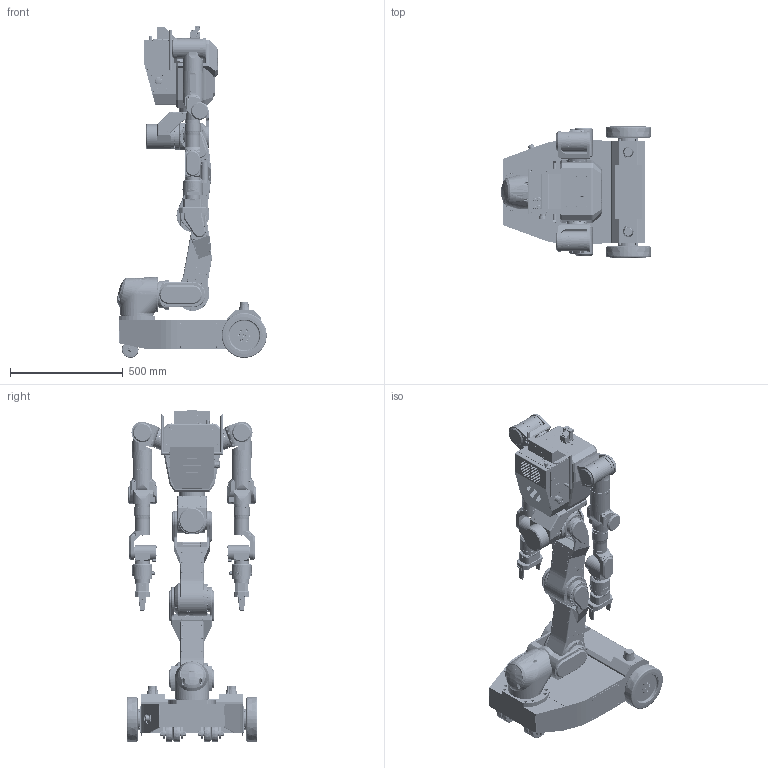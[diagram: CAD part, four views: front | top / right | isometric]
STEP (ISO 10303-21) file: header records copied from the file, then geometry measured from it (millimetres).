
FILE_DESCRIPTION(/* description */ (''),/* implementation_level */ '2;1');
FILE_NAME(/* name */ 'RB-Y1_v1.0_3D_Fast Grip_DD_KCs_260107.stp',/* time_stamp */ '2026-01-08T09:59:51+09:00',/* author */ ('KiWook.H'),/* organization */ (''),/* preprocessor_version */ 'ST-DEVELOPER v20',/* originating_system */ 'Autodesk Inventor 2025',/* authorisation */ '');
FILE_SCHEMA (('AUTOMOTIVE_DESIGN { 1 0 10303 214 3 1 1 }'));
Products named in the file (22): RB-Y1_v1.0_3D_Fast Grip_DD_KCs_260107; 000_Base_v1.0; 001_AR_v1.0; 002_AP_v1.0; 003_KN_v1.0; 004_HP_v1.0; 005_HR_v1.0; 006_HY_v1.0; 007_SP_R_v1.0; 008_SR_R_v1.0; 009_SY_R_v1.0; 010_EL_R_v1.0; 011_WY1_R_v1.0; 012_WP_R_v1.0; 014_SP_L_v1.0; 015_SR_L_v1.0; 016_SY_L_v1.0; 017_EL_L_v1.0; 018_WY1_L_v1.0; 019_WP_L_v1.0; 020_TF_v1.0; 021_Grippper_Fast_v1.0
Assembly tree (23 placements, depth 2):
  RB-Y1_v1.0_3D_Fast Grip_DD_KCs_260107
    000_Base_v1.0
    001_AR_v1.0
    002_AP_v1.0
    003_KN_v1.0
    004_HP_v1.0
    005_HR_v1.0
    006_HY_v1.0
    007_SP_R_v1.0
    008_SR_R_v1.0
    009_SY_R_v1.0
    010_EL_R_v1.0
    011_WY1_R_v1.0
    012_WP_R_v1.0
    014_SP_L_v1.0
    015_SR_L_v1.0
    016_SY_L_v1.0
    017_EL_L_v1.0
    018_WY1_L_v1.0
    019_WP_L_v1.0
    020_TF_v1.0  x2
    021_Grippper_Fast_v1.0  x2
Bounding box: 662.62 x 580 x 1470 mm (x, y, z)
Volume: 73478224.2 mm3; surface area: 4964696.1 mm2
Topology: 39 solids, 334 shells, 16677 faces, 42763 edges, 27769 vertices
Faces by surface type: plane 9127, cylinder 4582, cone 1808, torus 738, bspline 361, sphere 61
Full cylindrical faces by diameter (mm): 0.7 x16, 1.03 x16, 1.5 x10, 1.567 x16, 1.7 x10, 2 x33, 2.013 x4, 2.05 x12, 2.2 x13, 2.459 x72, 2.5 x27, 2.693 x10, 2.9 x2, 3 x148, 3.1 x10, 3.2 x34, 3.242 x13, 3.3 x8, 3.4 x29, 3.8 x4, 3.9 x1, 4 x79, 4.2 x8, 4.5 x22, 4.8 x6, 4.917 x8, 5 x120, 5.1 x4, 5.2 x6, 5.5 x98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
Entity records: 600714 total; most frequent: CARTESIAN_POINT 211805, ORIENTED_EDGE 79392, DIRECTION 76801, EDGE_CURVE 39696, AXIS2_PLACEMENT_3D 28076, VERTEX_POINT 26102, LINE 20649, VECTOR 20649
